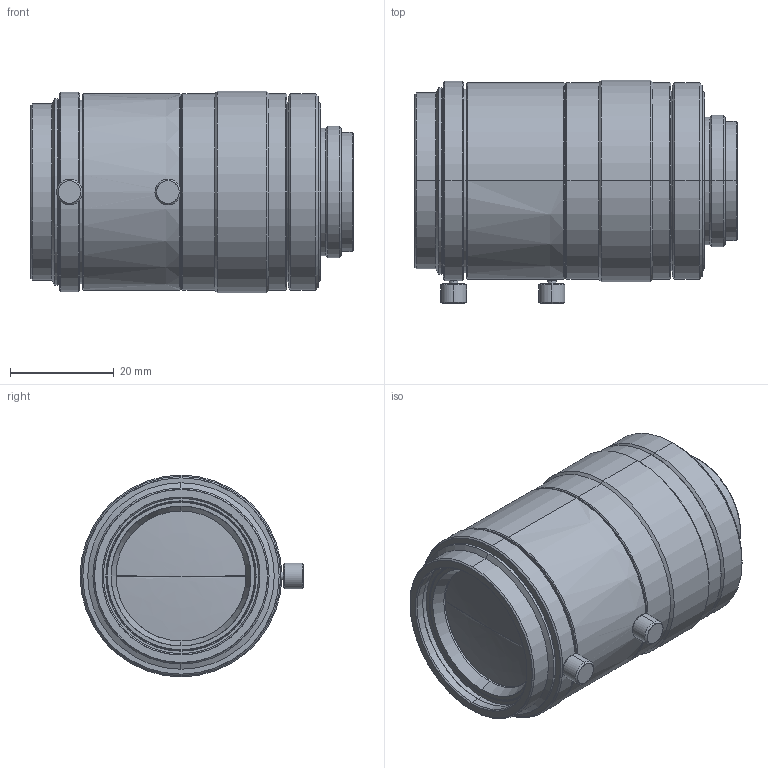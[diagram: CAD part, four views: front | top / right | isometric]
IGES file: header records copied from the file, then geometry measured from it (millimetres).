
Start section: SolidWorks IGES file using analytic representation for surfaces
Bounding box: 62.3 x 43.25 x 39 mm (x, y, z)
Surface area: 11347.8 mm2 (no closed solid volume)
Topology: 0 solids, 0 shells, 134 faces, 2516 edges, 2515 vertices
Faces by surface type: revolution 113, bspline 21
